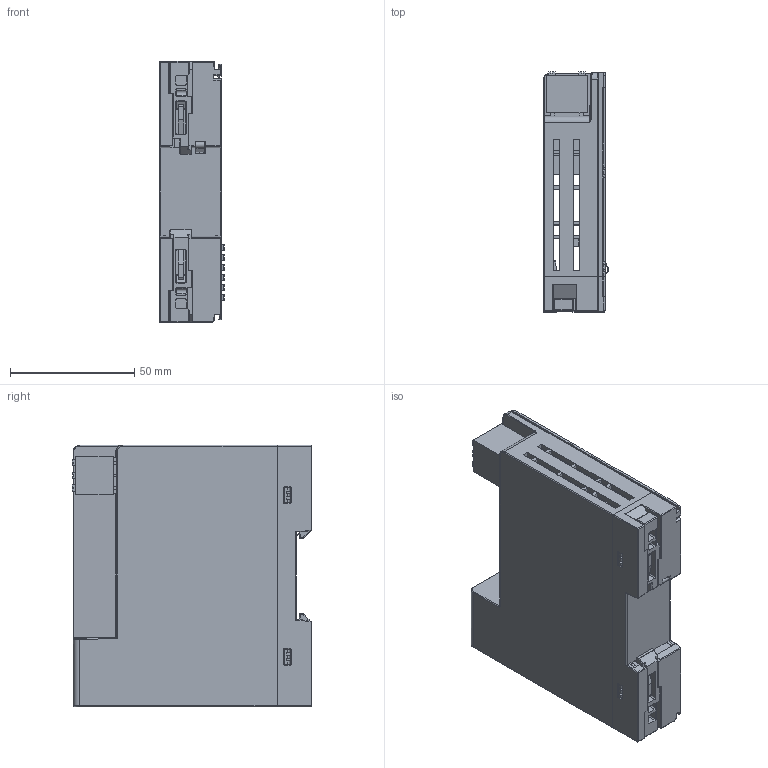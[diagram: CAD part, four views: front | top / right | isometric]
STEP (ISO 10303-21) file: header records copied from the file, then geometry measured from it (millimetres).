
FILE_DESCRIPTION((''),'2;1');
FILE_NAME('00-AX80OHQ_ASM','2023-09-04T11:13:50',('Administrator'),(''),'CREO PARAMETRIC BY PTC INC, 2019080','CREO PARAMETRIC BY PTC INC, 2019080','');
FILE_SCHEMA(('CONFIG_CONTROL_DESIGN'));
Products named in the file (18): 80740374; 80740377; 80740377SY; 80740377SY_ASM; 80880795; 80880796; PCB-A15-OHQ; 24007-00011; CXLJQ-Y-0722; 77559742; DDD1; PK2205-USB; 77559739; 2EDGKNH-508-6P-1Y-00A; 2EDGRHC-508-6P-1Y-00A; PCB-A15-OHQ_ASM; PCB--OHQ_ASM; 00-AX80OHQ_ASM
Assembly tree (20 placements, depth 4):
  00-AX80OHQ_ASM
    80740374
    80740377SY_ASM
      80740377
      80740377SY
    80880795
    80880796
    PCB--OHQ_ASM
      PCB-A15-OHQ_ASM
        PCB-A15-OHQ
        24007-00011  x2
        CXLJQ-Y-0722
        77559742
        DDD1  x3
        PK2205-USB
        77559739
        2EDGKNH-508-6P-1Y-00A
        2EDGRHC-508-6P-1Y-00A
Bounding box: 26.3 x 96.4 x 105 mm (x, y, z)
Volume: 88937 mm3; surface area: 95462.7 mm2
Topology: 40 solids, 43 shells, 3419 faces, 9435 edges, 6141 vertices
Faces by surface type: plane 2692, cylinder 605, bspline 45, sphere 34, cone 31, torus 12
Entity records: 102955 total; most frequent: CARTESIAN_POINT 23435, ORIENTED_EDGE 17136, DIRECTION 15353, EDGE_CURVE 8572, VECTOR 7147, LINE 7147, VERTEX_POINT 5579, AXIS2_PLACEMENT_3D 4103
